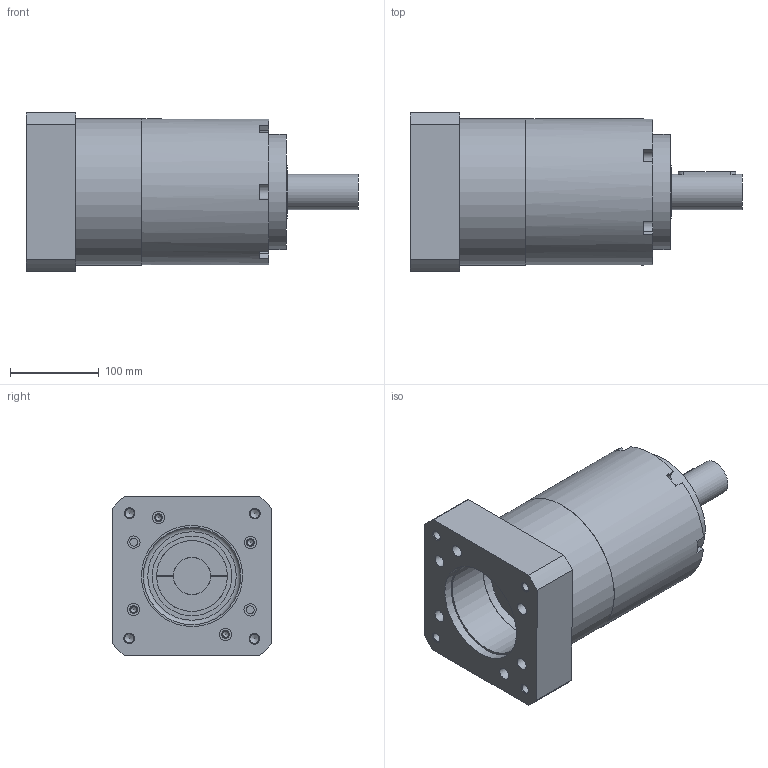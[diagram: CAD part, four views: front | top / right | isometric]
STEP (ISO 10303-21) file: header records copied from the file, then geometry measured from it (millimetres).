
FILE_DESCRIPTION(/* description */ (''),/* implementation_level */ '2;1');
FILE_NAME(/* name */ 'PLE160-L2 42-114.3-200-M12.stp',/* time_stamp */ '2022-02-28T11:41:22+08:00',/* author */ (''),/* organization */ (''),/* preprocessor_version */ 'ST-DEVELOPER v16.7',/* originating_system */ 'SIEMENS PLM Software NX 12.0',/* authorisation */ '');
FILE_SCHEMA (('AP203_CONFIGURATION_CONTROLLED_3D_DESIGN_OF_MECHANICAL_PARTS_AND_ASSEMBLIES_MIM_LF { 1 0 10303 403 2 1 2}'));
Length unit declared in the file: millimetre
Products named in the file (1): PLE160-L2 42-114.3-200-M12
Bounding box: 375 x 180.5 x 180.5 mm (x, y, z)
Volume: 5089854.1 mm3; surface area: 430608.4 mm2
Topology: 3 solids, 3 shells, 204 faces, 506 edges, 340 vertices
Faces by surface type: plane 89, cylinder 88, cone 26, torus 1
Full cylindrical faces by diameter (mm): 6.8 x6, 8.5 x6, 9 x12, 10.2 x6, 10.3 x4, 10.5 x6, 13 x2, 14 x7, 31 x1, 40 x1, 42 x1, 43 x1, 47 x1, 50 x1, 60 x1, 90 x1, 110 x3, 114 x1, 114.3 x1, 126 x1, 130 x1, 140 x2, 165 x2
Entity records: 5835 total; most frequent: DIRECTION 936, CARTESIAN_POINT 898, ORIENTED_EDGE 652, AXIS2_PLACEMENT_3D 411, EDGE_LOOP 352, EDGE_CURVE 326, FACE_BOUND 309, VERTEX_POINT 277
